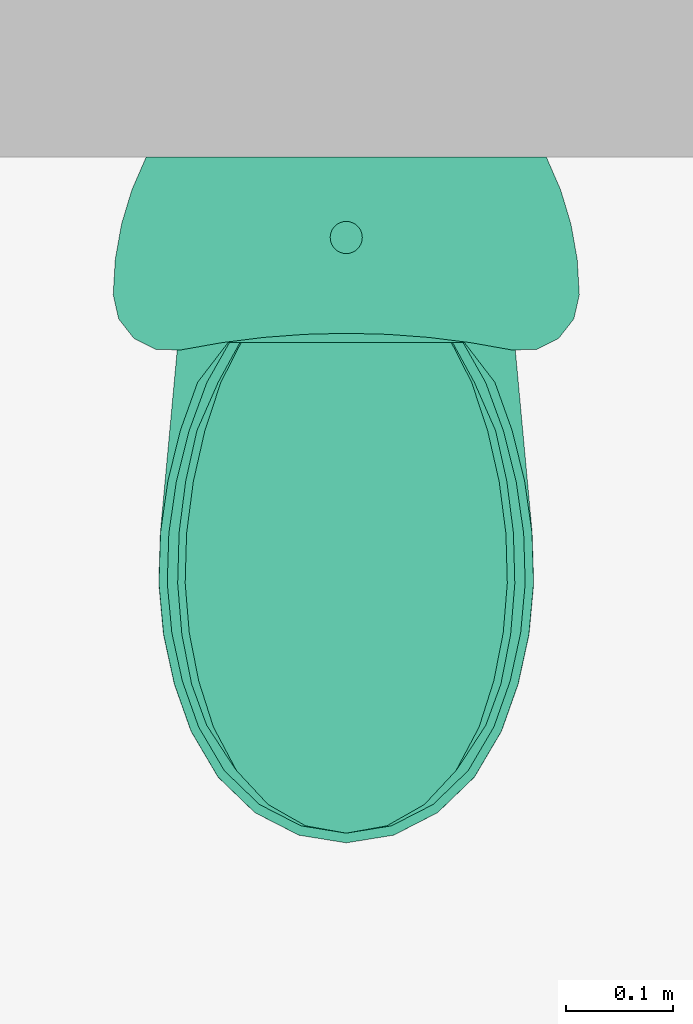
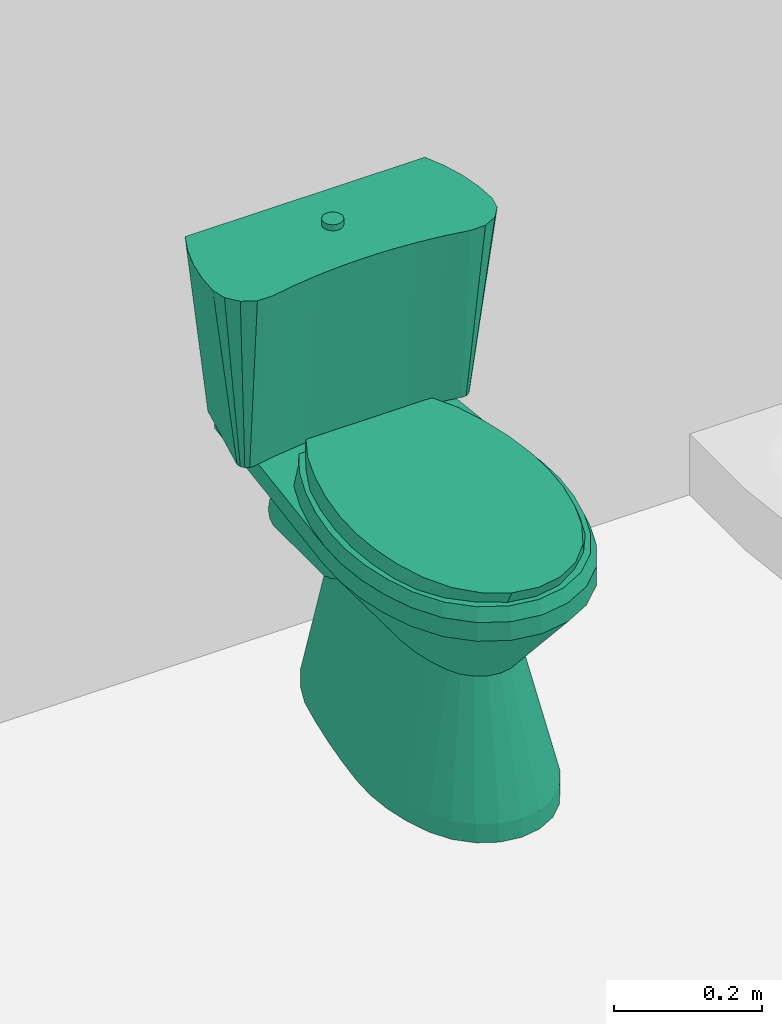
# One storey, part 31 of 36: 1 flow terminal.
"""IFC2X3 building model written with IfcOpenShell, lengths in millimetres."""

from ifc_helpers import new_model, entity, si_unit, converted_unit, money_unit, direction, frame, origin_with_axes, place, context, subcontext, project, spatial, open_shell, faceted_brep, surface_model, material, material_list, type_object, element, save


model = new_model("IFC2X3")

# Units and contexts
model_context = context("Model", 3, precision=1e-05, world=origin_with_axes(), true_north=direction((0.0, 1.0)))
body_context = subcontext(model_context, "Body", "Model", "MODEL_VIEW")
ifc_project = project(units=[si_unit("LENGTHUNIT", "METRE", prefix="MILLI"), si_unit("AREAUNIT", "SQUARE_METRE"), si_unit("VOLUMEUNIT", "CUBIC_METRE"), converted_unit("PLANEANGLEUNIT", "DEGREE", entity("IfcPlaneAngleMeasure", 0.0174532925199), si_unit("PLANEANGLEUNIT", "RADIAN"), dimensions=[0, 0, 0, 0, 0, 0, 0]), si_unit("SOLIDANGLEUNIT", "STERADIAN"), money_unit("USD"), converted_unit("TIMEUNIT", "Year", entity("IfcTimeMeasure", 31556926.0), si_unit("TIMEUNIT", "SECOND"), dimensions=[0, 0, 0, 0, 0, 0, 0]), si_unit("MASSUNIT", "GRAM"), si_unit("THERMODYNAMICTEMPERATUREUNIT", "DEGREE_CELSIUS"), si_unit("LUMINOUSINTENSITYUNIT", "LUMEN")], contexts=[model_context])

# Site, building, storey
site_placement = place(None, origin_with_axes())
site = spatial("IfcSite", under=ifc_project, at=site_placement, Name="Site", CompositionType="ELEMENT")
building_placement = place(site_placement, origin_with_axes())
building = spatial("IfcBuilding", under=site, at=building_placement, Name="Building", CompositionType="ELEMENT")
storey_placement = place(building_placement, frame((0.0, 0.0, -3400.0), z_axis=(0.0, 0.0, 1.0), x_axis=(1.0, 0.0, 0.0)))
storey = spatial("IfcBuildingStorey", under=building, at=storey_placement, Name="1KORRUS", CompositionType="ELEMENT", Elevation=-3400.0)

# Flow terminal
ifc_material = material(Name="Background")
ifc_material_list = material_list([ifc_material])
sanitary_terminal_type = type_object("IfcSanitaryTerminalType", Name="WC 19", PredefinedType="WCSEAT")
flow_terminal_placement = place(storey_placement, frame((-56354.1057379, -5039.6041088, 0.0), z_axis=(0.0, 0.0, 1.0), x_axis=(1.0, 0.0, 0.0)))
element("IfcFlowTerminal", 1, at=flow_terminal_placement, inside=storey, type_object=sanitary_terminal_type, material=ifc_material_list, Name="FU - 004", context=body_context, shape_type="SurfaceModel", body=[
    faceted_brep([(55.058, -205.714, 219.881), (49.363, -205.714, 233.628), (40.305, -205.714, 245.433), (28.5, -205.714, 254.492), (14.753, -205.714, 260.186), (0.0, -205.714, 262.128), (-14.753, -205.714, 260.186), (-28.5, -205.714, 254.492), (-40.305, -205.714, 245.433), (-49.363, -205.714, 233.628), (-55.058, -205.714, 219.881), (-57.0, -205.714, 205.128), (-55.058, -205.714, 190.376), (-49.363, -205.714, 176.628), (-40.305, -205.714, 164.823), (-28.5, -205.714, 155.765), (-14.753, -205.714, 150.07), (0.0, -205.714, 148.128), (14.753, -205.714, 150.07), (28.5, -205.714, 155.765), (40.305, -205.714, 164.823), (49.363, -205.714, 176.628), (55.058, -205.714, 190.376), (57.0, -205.714, 205.128), (55.058, 0.0, 219.881), (49.363, 0.0, 233.628), (40.305, 0.0, 245.433), (28.5, 0.0, 254.492), (14.753, 0.0, 260.186), (0.0, 0.0, 262.128), (-14.753, 0.0, 260.186), (-28.5, 0.0, 254.492), (-40.305, 0.0, 245.433), (-49.363, 0.0, 233.628), (-55.058, 0.0, 219.881), (-57.0, 0.0, 205.128), (-55.058, 0.0, 190.376), (-49.363, 0.0, 176.628), (-40.305, 0.0, 164.823), (-28.5, 0.0, 155.765), (-14.753, 0.0, 150.07), (0.0, 0.0, 148.128), (14.753, 0.0, 150.07), (28.5, 0.0, 155.765), (40.305, 0.0, 164.823), (49.363, 0.0, 176.628), (55.058, 0.0, 190.376), (57.0, 0.0, 205.128)], [[[0, 1, 2, 3, 4, 5, 6, 7, 8, 9, 10, 11, 12, 13, 14, 15, 16, 17, 18, 19, 20, 21, 22, 23]], [[1, 0, 24, 25]], [[2, 1, 25, 26]], [[3, 2, 26, 27]], [[4, 3, 27, 28]], [[5, 4, 28, 29]], [[6, 5, 29, 30]], [[7, 6, 30, 31]], [[8, 7, 31, 32]], [[9, 8, 32, 33]], [[10, 9, 33, 34]], [[11, 10, 34, 35]], [[12, 11, 35, 36]], [[13, 12, 36, 37]], [[14, 13, 37, 38]], [[15, 14, 38, 39]], [[16, 15, 39, 40]], [[17, 16, 40, 41]], [[18, 17, 41, 42]], [[19, 18, 42, 43]], [[20, 19, 43, 44]], [[21, 20, 44, 45]], [[22, 21, 45, 46]], [[23, 22, 46, 47]], [[0, 23, 47, 24]], [[24, 47, 46, 45, 44, 43, 42, 41, 40, 39, 38, 37, 36, 35, 34, 33, 32, 31, 30, 29, 28, 27, 26, 25]]]),
    surface_model("IfcShellBasedSurfaceModel", [(0.0, -584.332, 0.0), (31.164, -579.288, 0.0), (31.164, -579.288, 30.769), (0.0, -584.332, 30.769), (-31.164, -579.288, 0.0), (-59.941, -564.544, 0.0), (-84.129, -541.226, 0.0), (-101.875, -511.122, 0.0), (-114.924, -474.291, 0.0), (-123.349, -435.692, 0.0), (-126.982, -396.1, 0.0), (-125.75, -356.312, 0.0), (-120.449, -307.768, 0.0), (-113.552, -259.495, 0.0), (-105.069, -211.56, 0.0), (-95.011, -164.036, 0.0), (-81.829, -130.153, 0.0), (-59.931, -102.992, 0.0), (-31.651, -85.443, 0.0), (0.0, -79.379, 0.0), (31.651, -85.443, 0.0), (59.931, -102.992, 0.0), (81.829, -130.153, 0.0), (95.011, -164.036, 0.0), (105.069, -211.56, 0.0), (113.552, -259.494, 0.0), (120.449, -307.768, 0.0), (125.75, -356.312, 0.0), (126.982, -396.1, 0.0), (123.349, -435.692, 0.0), (114.924, -474.291, 0.0), (101.875, -511.122, 0.0), (84.129, -541.226, 0.0), (59.941, -564.544, 0.0), (59.941, -564.544, 30.769), (-31.164, -579.288, 30.769), (-59.941, -564.544, 30.769), (-84.129, -541.226, 30.769), (-101.875, -511.122, 30.769), (-114.924, -474.291, 30.769), (-123.349, -435.692, 30.769), (-126.982, -396.1, 30.769), (-125.75, -356.312, 30.769), (-120.449, -307.768, 30.769), (-113.552, -259.495, 30.769), (-105.069, -211.56, 30.769), (-95.011, -164.036, 30.769), (-81.829, -130.153, 30.769), (-59.931, -102.992, 30.769), (-31.651, -85.443, 30.769), (0.0, -79.379, 30.769), (31.651, -85.443, 30.769), (59.931, -102.992, 30.769), (81.829, -130.153, 30.769), (95.011, -164.036, 30.769), (105.069, -211.56, 30.769), (113.552, -259.494, 30.769), (120.449, -307.768, 30.769), (125.75, -356.312, 30.769), (126.982, -396.1, 30.769), (123.349, -435.692, 30.769), (114.924, -474.291, 30.769), (101.875, -511.122, 30.769), (84.129, -541.226, 30.769)], [open_shell([[[0, 1, 2, 3]], [[0, 4, 5, 6, 7, 8, 9, 10, 11, 12, 13, 14, 15, 16, 17, 18, 19, 20, 21, 22, 23, 24, 25, 26, 27, 28, 29, 30, 31, 32, 33, 1]], [[1, 33, 34, 2]], [[4, 0, 3, 35]], [[5, 4, 35, 36]], [[6, 5, 36, 37]], [[7, 6, 37, 38]], [[8, 7, 38, 39]], [[9, 8, 39, 40]], [[10, 9, 40, 41]], [[11, 10, 41, 42]], [[12, 11, 42, 43]], [[13, 12, 43, 44]], [[14, 13, 44, 45]], [[15, 14, 45, 46]], [[16, 15, 46, 47]], [[17, 16, 47, 48]], [[18, 17, 48, 49]], [[19, 18, 49, 50]], [[20, 19, 50, 51]], [[21, 20, 51, 52]], [[22, 21, 52, 53]], [[23, 22, 53, 54]], [[24, 23, 54, 55]], [[25, 24, 55, 56]], [[26, 25, 56, 57]], [[27, 26, 57, 58]], [[28, 27, 58, 59]], [[29, 28, 59, 60]], [[30, 29, 60, 61]], [[31, 30, 61, 62]], [[32, 31, 62, 63]], [[33, 32, 63, 34]]])]),
    surface_model("IfcShellBasedSurfaceModel", [(0.0, -584.332, 30.769), (-31.164, -579.288, 30.769), (-17.71, -524.594, 235.897), (-34.064, -516.215, 235.897), (0.0, -527.46, 235.897), (-59.941, -564.544, 30.769), (31.164, -579.288, 30.769), (-47.809, -502.964, 235.897), (17.71, -524.594, 235.897), (-84.129, -541.226, 30.769), (59.941, -564.544, 30.769), (-57.893, -485.857, 235.897), (34.064, -516.215, 235.897), (-101.875, -511.122, 30.769), (84.129, -541.226, 30.769), (-68.302, -456.477, 235.897), (47.809, -502.964, 235.897), (-114.924, -474.291, 30.769), (101.875, -511.122, 30.769), (-75.023, -425.689, 235.897), (57.893, -485.857, 235.897), (-123.349, -435.692, 30.769), (114.924, -474.291, 30.769), (-77.921, -394.109, 235.897), (68.302, -456.477, 235.897), (-126.982, -396.1, 30.769), (123.349, -435.692, 30.769), (-76.938, -362.372, 235.897), (75.023, -425.689, 235.897), (-125.75, -356.312, 30.769), (126.982, -396.1, 30.769), (-71.048, -309.559, 235.897), (77.921, -394.108, 235.897), (-120.449, -307.768, 30.769), (125.75, -356.312, 30.769), (-63.181, -257.094, 235.897), (76.938, -362.372, 235.897), (-113.552, -259.495, 30.769), (120.449, -307.768, 30.769), (-53.352, -205.075, 235.897), (71.048, -309.559, 235.897), (-105.069, -211.56, 30.769), (113.552, -259.494, 30.769), (-41.58, -153.6, 235.897), (63.181, -257.094, 235.897), (-95.011, -164.036, 30.769), (105.069, -211.56, 30.769), (-35.636, -139.049, 235.897), (53.352, -205.075, 235.897), (-81.829, -130.153, 30.769), (95.011, -164.036, 30.769), (-26.018, -127.43, 235.897), (41.58, -153.6, 235.897), (-59.931, -102.992, 30.769), (81.829, -130.153, 30.769), (-13.716, -119.942, 235.897), (35.636, -139.049, 235.897), (-31.651, -85.443, 30.769), (59.931, -102.992, 30.769), (0.0, -117.357, 235.897), (26.018, -127.43, 235.897), (0.0, -79.379, 30.769), (31.651, -85.443, 30.769), (13.716, -119.942, 235.897)], [open_shell([[[0, 1, 2]], [[1, 3, 2]], [[0, 2, 4]], [[1, 5, 3]], [[6, 0, 4]], [[5, 7, 3]], [[6, 4, 8]], [[5, 9, 7]], [[10, 6, 8]], [[9, 11, 7]], [[10, 8, 12]], [[9, 13, 11]], [[14, 10, 12]], [[13, 15, 11]], [[14, 12, 16]], [[13, 17, 15]], [[18, 14, 16]], [[17, 19, 15]], [[18, 16, 20]], [[17, 21, 19]], [[22, 18, 20]], [[21, 23, 19]], [[22, 20, 24]], [[21, 25, 23]], [[26, 22, 24]], [[25, 27, 23]], [[26, 24, 28]], [[25, 29, 27]], [[30, 26, 28]], [[29, 31, 27]], [[30, 28, 32]], [[29, 33, 31]], [[34, 30, 32]], [[33, 35, 31]], [[34, 32, 36]], [[33, 37, 35]], [[38, 34, 36]], [[37, 39, 35]], [[38, 36, 40]], [[37, 41, 39]], [[42, 38, 40]], [[41, 43, 39]], [[42, 40, 44]], [[41, 45, 43]], [[46, 42, 44]], [[45, 47, 43]], [[46, 44, 48]], [[45, 49, 47]], [[50, 46, 48]], [[49, 51, 47]], [[50, 48, 52]], [[49, 53, 51]], [[54, 50, 52]], [[53, 55, 51]], [[54, 52, 56]], [[53, 57, 55]], [[58, 54, 56]], [[57, 59, 55]], [[58, 56, 60]], [[57, 61, 59]], [[62, 58, 60]], [[61, 63, 59]], [[62, 60, 63]], [[61, 62, 63]]])]),
    surface_model("IfcShellBasedSurfaceModel", [(17.71, -524.594, 235.897), (34.064, -516.215, 235.897), (85.272, -611.849, 369.231), (0.0, -527.46, 235.897), (-17.71, -524.594, 235.897), (-34.064, -516.215, 235.897), (-47.809, -502.964, 235.897), (-57.893, -485.857, 235.897), (-68.302, -456.477, 235.897), (-75.023, -425.689, 235.897), (-77.921, -394.109, 235.897), (-76.938, -362.372, 235.897), (-71.048, -309.559, 235.897), (-63.181, -257.094, 235.897), (-53.352, -205.075, 235.897), (-41.58, -153.6, 235.897), (-35.636, -139.049, 235.897), (-26.018, -127.43, 235.897), (-13.716, -119.942, 235.897), (0.0, -117.357, 235.897), (13.716, -119.942, 235.897), (26.018, -127.43, 235.897), (35.636, -139.049, 235.897), (41.58, -153.6, 235.897), (53.352, -205.075, 235.897), (63.181, -257.094, 235.897), (71.048, -309.559, 235.897), (76.938, -362.372, 235.897), (77.921, -394.108, 235.897), (75.023, -425.689, 235.897), (68.302, -456.477, 235.897), (57.893, -485.857, 235.897), (47.809, -502.964, 235.897), (119.68, -578.678, 369.231), (44.333, -632.825, 369.231), (0.0, -640.0, 369.231), (-44.333, -632.825, 369.231), (-85.272, -611.849, 369.231), (-119.68, -578.678, 369.231), (-144.925, -535.853, 369.231), (-160.558, -491.726, 369.231), (-170.653, -445.482, 369.231), (-175.006, -398.05, 369.231), (-173.529, -350.382, 369.231), (-164.984, -294.051, 369.231), (-149.997, -239.558, 369.231), (-128.84, -187.883, 369.231), (-101.895, -139.96, 369.231), (-81.598, -115.237, 369.231), (-56.946, -96.571, 369.231), (-29.254, -84.958, 369.231), (0.0, -81.017, 369.231), (29.254, -84.958, 369.231), (56.946, -96.571, 369.231), (81.598, -115.237, 369.231), (101.895, -139.96, 369.231), (128.84, -187.883, 369.231), (149.997, -239.558, 369.231), (164.984, -294.052, 369.231), (173.529, -350.382, 369.231), (175.006, -398.05, 369.231), (170.653, -445.482, 369.231), (160.559, -491.726, 369.231), (144.925, -535.853, 369.231)], [open_shell([[[0, 1, 2]], [[0, 3, 4, 5, 6, 7, 8, 9, 10, 11, 12, 13, 14, 15, 16, 17, 18, 19, 20, 21, 22, 23, 24, 25, 26, 27, 28, 29, 30, 31, 32, 1]], [[1, 33, 2]], [[0, 2, 34]], [[3, 0, 34]], [[4, 3, 35]], [[5, 4, 36]], [[6, 5, 37]], [[7, 6, 38]], [[8, 7, 39]], [[9, 8, 40]], [[10, 9, 41]], [[11, 10, 42]], [[12, 11, 43]], [[13, 12, 44]], [[14, 13, 45]], [[15, 14, 46]], [[16, 15, 47]], [[17, 16, 48]], [[18, 17, 49]], [[19, 18, 50]], [[20, 19, 51]], [[21, 20, 52]], [[22, 21, 53]], [[23, 22, 54]], [[24, 23, 55]], [[25, 24, 56]], [[26, 25, 57]], [[27, 26, 58]], [[28, 27, 59]], [[29, 28, 60]], [[30, 29, 61]], [[31, 30, 62]], [[32, 31, 63]], [[1, 32, 33]], [[3, 34, 35]], [[4, 35, 36]], [[5, 36, 37]], [[6, 37, 38]], [[7, 38, 39]], [[8, 39, 40]], [[9, 40, 41]], [[10, 41, 42]], [[11, 42, 43]], [[12, 43, 44]], [[13, 44, 45]], [[14, 45, 46]], [[15, 46, 47]], [[16, 47, 48]], [[17, 48, 49]], [[18, 49, 50]], [[19, 50, 51]], [[20, 51, 52]], [[21, 52, 53]], [[22, 53, 54]], [[23, 54, 55]], [[24, 55, 56]], [[25, 56, 57]], [[26, 57, 58]], [[27, 58, 59]], [[28, 59, 60]], [[29, 60, 61]], [[30, 61, 62]], [[31, 62, 63]], [[32, 63, 33]]])]),
    surface_model("IfcShellBasedSurfaceModel", [(16.824, -532.266, 276.923), (32.361, -525.73, 276.923), (81.008, -600.324, 369.231), (0.0, -534.501, 276.923), (-16.824, -532.266, 276.923), (-32.361, -525.73, 276.923), (-45.418, -515.394, 276.923), (-54.998, -502.051, 276.923), (-64.887, -479.134, 276.923), (-71.271, -455.12, 276.923), (-74.025, -430.487, 276.923), (-73.091, -405.732, 276.923), (-67.496, -364.538, 276.923), (-60.022, -323.615, 276.923), (-50.684, -283.041, 276.923), (-39.501, -242.89, 276.923), (-33.854, -231.54, 276.923), (-24.717, -222.477, 276.923), (-13.03, -216.637, 276.923), (0.0, -214.62, 276.923), (13.03, -216.637, 276.923), (24.717, -222.477, 276.923), (33.854, -231.54, 276.923), (39.501, -242.89, 276.923), (50.684, -283.041, 276.923), (60.022, -323.615, 276.923), (67.496, -364.538, 276.923), (73.091, -405.732, 276.923), (74.025, -430.487, 276.923), (71.271, -455.12, 276.923), (64.887, -479.134, 276.923), (54.998, -502.051, 276.923), (45.418, -515.394, 276.923), (113.696, -574.451, 369.231), (42.117, -616.686, 369.231), (0.0, -622.282, 369.231), (-42.117, -616.686, 369.231), (-81.008, -600.324, 369.231), (-113.696, -574.451, 369.231), (-137.679, -541.048, 369.231), (-152.53, -506.628, 369.231), (-162.12, -470.558, 369.231), (-166.256, -433.562, 369.231), (-164.853, -396.38, 369.231), (-156.735, -352.442, 369.231), (-142.497, -309.937, 369.231), (-122.398, -269.631, 369.231), (-96.8, -232.251, 369.231), (-77.518, -212.967, 369.231), (-54.099, -198.408, 369.231), (-27.791, -189.35, 369.231), (0.0, -186.275, 369.231), (27.791, -189.35, 369.231), (54.099, -198.408, 369.231), (77.518, -212.967, 369.231), (96.8, -232.251, 369.231), (122.398, -269.631, 369.231), (142.497, -309.937, 369.231), (156.735, -352.443, 369.231), (164.853, -396.38, 369.231), (166.256, -433.562, 369.231), (162.12, -470.558, 369.231), (152.531, -506.628, 369.231), (137.679, -541.048, 369.231)], [open_shell([[[0, 1, 2]], [[0, 3, 4, 5, 6, 7, 8, 9, 10, 11, 12, 13, 14, 15, 16, 17, 18, 19, 20, 21, 22, 23, 24, 25, 26, 27, 28, 29, 30, 31, 32, 1]], [[1, 33, 2]], [[0, 2, 34]], [[3, 0, 34]], [[4, 3, 35]], [[5, 4, 36]], [[6, 5, 37]], [[7, 6, 38]], [[8, 7, 39]], [[9, 8, 40]], [[10, 9, 41]], [[11, 10, 42]], [[12, 11, 43]], [[13, 12, 44]], [[14, 13, 45]], [[15, 14, 46]], [[16, 15, 47]], [[17, 16, 48]], [[18, 17, 49]], [[19, 18, 50]], [[20, 19, 51]], [[21, 20, 52]], [[22, 21, 53]], [[23, 22, 54]], [[24, 23, 55]], [[25, 24, 56]], [[26, 25, 57]], [[27, 26, 58]], [[28, 27, 59]], [[29, 28, 60]], [[30, 29, 61]], [[31, 30, 62]], [[32, 31, 63]], [[1, 32, 33]], [[3, 34, 35]], [[4, 35, 36]], [[5, 36, 37]], [[6, 37, 38]], [[7, 38, 39]], [[8, 39, 40]], [[9, 40, 41]], [[10, 41, 42]], [[11, 42, 43]], [[12, 43, 44]], [[13, 44, 45]], [[14, 45, 46]], [[15, 46, 47]], [[16, 47, 48]], [[17, 48, 49]], [[18, 49, 50]], [[19, 50, 51]], [[20, 51, 52]], [[21, 52, 53]], [[22, 53, 54]], [[23, 54, 55]], [[24, 55, 56]], [[25, 56, 57]], [[26, 57, 58]], [[27, 58, 59]], [[28, 59, 60]], [[29, 60, 61]], [[30, 61, 62]], [[31, 62, 63]], [[32, 63, 33]]])]),
    faceted_brep([(-173.529, -350.382, 369.231), (-175.006, -398.05, 369.231), (-175.006, -398.05, 400.0), (-173.529, -350.382, 400.0), (-141.122, 0.002, 369.231), (141.124, 0.002, 369.231), (173.529, -350.382, 369.231), (175.006, -398.05, 369.231), (170.653, -445.482, 369.231), (160.559, -491.726, 369.231), (144.925, -535.853, 369.231), (119.68, -578.678, 369.231), (85.272, -611.849, 369.231), (44.333, -632.825, 369.231), (0.0, -640.0, 369.231), (-44.333, -632.825, 369.231), (-85.272, -611.849, 369.231), (-119.68, -578.678, 369.231), (-144.925, -535.853, 369.231), (-160.558, -491.726, 369.231), (-170.653, -445.482, 369.231), (144.654, -353.966, 369.231), (129.525, -295.18, 369.231), (97.237, -246.561, 369.231), (52.068, -214.548, 369.231), (0.0, -203.385, 369.231), (-52.068, -214.548, 369.231), (-97.237, -246.561, 369.231), (-129.525, -295.18, 369.231), (-144.654, -353.966, 369.231), (-145.982, -396.872, 369.231), (-142.064, -439.565, 369.231), (-132.978, -481.188, 369.231), (-118.907, -520.907, 369.231), (-98.195, -556.044, 369.231), (-69.964, -583.26, 369.231), (-36.375, -600.47, 369.231), (0.0, -606.357, 369.231), (36.375, -600.47, 369.231), (69.964, -583.26, 369.231), (98.195, -556.044, 369.231), (118.907, -520.907, 369.231), (132.978, -481.188, 369.231), (142.064, -439.565, 369.231), (145.982, -396.872, 369.231), (-170.653, -445.482, 400.0), (-160.558, -491.726, 400.0), (-144.925, -535.853, 400.0), (-119.68, -578.678, 400.0), (-85.272, -611.849, 400.0), (-44.333, -632.825, 400.0), (0.0, -640.0, 400.0), (44.333, -632.825, 400.0), (85.272, -611.849, 400.0), (119.68, -578.678, 400.0), (144.925, -535.853, 400.0), (160.559, -491.726, 400.0), (170.653, -445.482, 400.0), (175.006, -398.05, 400.0), (173.529, -350.382, 400.0), (141.124, 0.002, 400.0), (-141.122, 0.002, 400.0), (144.654, -353.966, 400.0), (145.982, -396.872, 400.0), (142.064, -439.565, 400.0), (132.978, -481.188, 400.0), (118.907, -520.907, 400.0), (98.195, -556.044, 400.0), (69.964, -583.26, 400.0), (36.375, -600.47, 400.0), (0.0, -606.357, 400.0), (-36.375, -600.47, 400.0), (-69.964, -583.26, 400.0), (-98.195, -556.044, 400.0), (-118.907, -520.907, 400.0), (-132.978, -481.188, 400.0), (-142.064, -439.565, 400.0), (-145.982, -396.872, 400.0), (-144.654, -353.966, 400.0), (-129.525, -295.18, 400.0), (-97.237, -246.561, 400.0), (-52.068, -214.548, 400.0), (0.0, -203.385, 400.0), (52.068, -214.548, 400.0), (97.237, -246.561, 400.0), (129.525, -295.18, 400.0)], [[[0, 1, 2, 3]], [[0, 4, 5, 6, 7, 8, 9, 10, 11, 12, 13, 14, 15, 16, 17, 18, 19, 20, 1], [21, 22, 23, 24, 25, 26, 27, 28, 29, 30, 31, 32, 33, 34, 35, 36, 37, 38, 39, 40, 41, 42, 43, 44]], [[1, 20, 45, 2]], [[3, 2, 45, 46, 47, 48, 49, 50, 51, 52, 53, 54, 55, 56, 57, 58, 59, 60, 61], [62, 63, 64, 65, 66, 67, 68, 69, 70, 71, 72, 73, 74, 75, 76, 77, 78, 79, 80, 81, 82, 83, 84, 85]], [[4, 0, 3, 61]], [[5, 4, 61, 60]], [[6, 5, 60, 59]], [[7, 6, 59, 58]], [[8, 7, 58, 57]], [[9, 8, 57, 56]], [[10, 9, 56, 55]], [[11, 10, 55, 54]], [[12, 11, 54, 53]], [[13, 12, 53, 52]], [[14, 13, 52, 51]], [[15, 14, 51, 50]], [[16, 15, 50, 49]], [[17, 16, 49, 48]], [[18, 17, 48, 47]], [[19, 18, 47, 46]], [[20, 19, 46, 45]], [[22, 21, 62, 85]], [[23, 22, 85, 84]], [[24, 23, 84, 83]], [[25, 24, 83, 82]], [[26, 25, 82, 81]], [[27, 26, 81, 80]], [[28, 27, 80, 79]], [[29, 28, 79, 78]], [[30, 29, 78, 77]], [[31, 30, 77, 76]], [[32, 31, 76, 75]], [[33, 32, 75, 74]], [[34, 33, 74, 73]], [[35, 34, 73, 72]], [[36, 35, 72, 71]], [[37, 36, 71, 70]], [[38, 37, 70, 69]], [[39, 38, 69, 68]], [[40, 39, 68, 67]], [[41, 40, 67, 66]], [[42, 41, 66, 65]], [[43, 42, 65, 64]], [[44, 43, 64, 63]], [[21, 44, 63, 62]]]),
    faceted_brep([(-44.287, -632.825, 400.0), (-85.182, -611.849, 400.0), (-119.555, -578.678, 400.0), (-144.773, -535.854, 400.0), (-160.389, -491.726, 400.0), (-170.474, -445.483, 400.0), (-174.822, -398.051, 400.0), (-173.347, -350.383, 400.0), (-166.466, -302.202, 400.0), (-154.872, -255.251, 400.0), (-138.715, -210.15, 400.0), (-110.193, -172.933, 400.0), (110.193, -172.933, 400.0), (138.715, -210.15, 400.0), (154.872, -255.251, 400.0), (166.466, -302.202, 400.0), (173.347, -350.383, 400.0), (174.822, -398.051, 400.0), (170.474, -445.483, 400.0), (160.39, -491.726, 400.0), (144.773, -535.854, 400.0), (119.555, -578.678, 400.0), (85.182, -611.849, 400.0), (44.287, -632.825, 400.0), (0.0, -640.0, 400.0), (87.077, -470.853, 400.0), (94.511, -436.887, 400.0), (97.716, -402.055, 400.0), (96.614, -366.563, 400.0), (90.993, -327.765, 400.0), (81.329, -289.529, 400.0), (68.754, -255.39, 400.0), (-68.754, -255.39, 400.0), (-81.329, -289.53, 400.0), (-90.993, -327.765, 400.0), (-96.614, -366.563, 400.0), (-97.716, -402.055, 400.0), (-94.511, -436.887, 400.0), (-87.077, -470.853, 400.0), (-76.489, -500.66, 400.0), (-62.069, -525.059, 400.0), (-44.261, -542.179, 400.0), (-23.026, -553.031, 400.0), (0.0, -556.748, 400.0), (23.026, -553.031, 400.0), (44.261, -542.179, 400.0), (62.069, -525.059, 400.0), (76.489, -500.66, 400.0), (-42.152, -624.136, 420.0), (-81.076, -604.17, 420.0), (-113.791, -572.6, 420.0), (-137.793, -531.84, 420.0), (-152.99, -488.897, 420.0), (-162.803, -443.894, 420.0), (-167.035, -397.734, 420.0), (-165.601, -351.346, 420.0), (-158.59, -302.781, 420.0), (-146.688, -255.515, 420.0), (-130.061, -210.208, 420.0), (-108.94, -172.933, 420.0), (108.94, -172.933, 420.0), (130.061, -210.207, 420.0), (146.688, -255.515, 420.0), (158.59, -302.781, 420.0), (165.601, -351.346, 420.0), (167.035, -397.734, 420.0), (162.803, -443.894, 420.0), (152.99, -488.897, 420.0), (137.793, -531.84, 420.0), (113.791, -572.6, 420.0), (81.076, -604.17, 420.0), (42.152, -624.136, 420.0), (0.0, -630.965, 420.0), (87.077, -470.853, 420.0), (94.511, -436.887, 420.0), (97.716, -402.055, 420.0), (96.614, -366.563, 420.0), (90.993, -327.765, 420.0), (81.329, -289.529, 420.0), (68.754, -255.39, 420.0), (-68.754, -255.39, 420.0), (-81.329, -289.53, 420.0), (-90.993, -327.765, 420.0), (-96.614, -366.563, 420.0), (-97.716, -402.055, 420.0), (-94.511, -436.887, 420.0), (-87.077, -470.853, 420.0), (-76.489, -500.66, 420.0), (-62.069, -525.059, 420.0), (-44.261, -542.179, 420.0), (-23.026, -553.031, 420.0), (0.0, -556.748, 420.0), (23.026, -553.031, 420.0), (44.261, -542.179, 420.0), (62.069, -525.059, 420.0), (76.489, -500.66, 420.0)], [[[0, 1, 2, 3, 4, 5, 6, 7, 8, 9, 10, 11, 12, 13, 14, 15, 16, 17, 18, 19, 20, 21, 22, 23, 24], [25, 26, 27, 28, 29, 30, 31, 32, 33, 34, 35, 36, 37, 38, 39, 40, 41, 42, 43, 44, 45, 46, 47]], [[0, 48, 1]], [[1, 49, 2]], [[2, 50, 3]], [[3, 51, 4]], [[4, 52, 5]], [[53, 54, 6, 5]], [[6, 54, 7]], [[7, 55, 8]], [[8, 56, 9]], [[9, 57, 10]], [[10, 58, 11]], [[59, 60, 12, 11]], [[12, 60, 13]], [[13, 61, 14]], [[14, 62, 15]], [[15, 63, 16]], [[16, 64, 17]], [[65, 66, 18, 17]], [[18, 66, 19]], [[67, 68, 20, 19]], [[20, 68, 21]], [[21, 69, 22]], [[22, 70, 23]], [[23, 71, 24]], [[24, 72, 0]], [[73, 74, 26, 25]], [[74, 75, 27, 26]], [[75, 76, 28, 27]], [[76, 77, 29, 28]], [[77, 78, 30, 29]], [[78, 79, 31, 30]], [[79, 80, 32, 31]], [[80, 81, 33, 32]], [[81, 82, 34, 33]], [[82, 83, 35, 34]], [[83, 84, 36, 35]], [[84, 85, 37, 36]], [[85, 86, 38, 37]], [[86, 87, 39, 38]], [[87, 88, 40, 39]], [[88, 89, 41, 40]], [[89, 90, 42, 41]], [[90, 91, 43, 42]], [[91, 92, 44, 43]], [[92, 93, 45, 44]], [[93, 94, 46, 45]], [[94, 95, 47, 46]], [[95, 73, 25, 47]], [[72, 48, 0]], [[48, 49, 1]], [[49, 50, 2]], [[50, 51, 3]], [[51, 52, 4]], [[52, 53, 5]], [[52, 51, 50, 49, 48, 72, 71, 70, 69, 68, 67, 66, 65, 64, 63, 62, 61, 60, 59, 58, 57, 56, 55, 54, 53], [77, 76, 75, 74, 73, 95, 94, 93, 92, 91, 90, 89, 88, 87, 86, 85, 84, 83, 82, 81, 80, 79, 78]], [[54, 55, 7]], [[55, 56, 8]], [[56, 57, 9]], [[57, 58, 10]], [[58, 59, 11]], [[60, 61, 13]], [[61, 62, 14]], [[62, 63, 15]], [[63, 64, 16]], [[64, 65, 17]], [[66, 67, 19]], [[68, 69, 21]], [[69, 70, 22]], [[70, 71, 23]], [[71, 72, 24]]]),
    faceted_brep([(-107.599, -565.049, 420.0), (-76.664, -593.677, 420.0), (-72.968, -604.17, 440.0), (-130.296, -530.175, 420.0), (-144.35, -491.726, 420.0), (-153.426, -445.483, 420.0), (-157.34, -398.051, 420.0), (-156.013, -350.383, 420.0), (-149.82, -302.202, 420.0), (-139.384, -255.251, 420.0), (-119.555, -210.15, 420.0), (-99.173, -172.933, 420.0), (99.173, -172.933, 420.0), (119.555, -210.15, 420.0), (139.384, -255.251, 420.0), (149.82, -302.202, 420.0), (156.013, -350.383, 420.0), (157.34, -398.051, 420.0), (153.426, -445.483, 420.0), (144.351, -491.726, 420.0), (130.296, -530.175, 420.0), (107.599, -565.049, 420.0), (76.664, -593.677, 420.0), (39.858, -615.789, 420.0), (0.0, -622.964, 420.0), (-39.858, -615.789, 420.0), (-37.937, -624.136, 440.0), (-102.412, -572.6, 440.0), (-124.013, -531.84, 440.0), (-137.691, -488.897, 440.0), (-146.523, -443.894, 440.0), (-150.332, -397.734, 440.0), (-149.041, -351.346, 440.0), (-142.731, -302.781, 440.0), (-132.019, -255.515, 440.0), (-117.055, -210.208, 440.0), (-98.046, -172.933, 440.0), (98.046, -172.933, 440.0), (117.055, -210.207, 440.0), (132.019, -255.515, 440.0), (142.731, -302.781, 440.0), (149.041, -351.346, 440.0), (150.332, -397.734, 440.0), (146.523, -443.894, 440.0), (137.691, -488.897, 440.0), (124.013, -531.84, 440.0), (102.412, -572.6, 440.0), (72.968, -604.17, 440.0), (37.937, -624.136, 440.0), (0.0, -630.965, 440.0)], [[[0, 1, 2]], [[0, 3, 4, 5, 6, 7, 8, 9, 10, 11, 12, 13, 14, 15, 16, 17, 18, 19, 20, 21, 22, 23, 24, 25, 1]], [[1, 26, 2]], [[0, 2, 27]], [[3, 0, 27]], [[4, 3, 28]], [[5, 4, 29]], [[6, 5, 30, 31]], [[7, 6, 31]], [[8, 7, 32]], [[9, 8, 33]], [[10, 9, 34]], [[11, 10, 35]], [[12, 11, 36, 37]], [[13, 12, 37]], [[14, 13, 38]], [[15, 14, 39]], [[16, 15, 40]], [[17, 16, 41]], [[18, 17, 42, 43]], [[19, 18, 43]], [[20, 19, 44]], [[21, 20, 45]], [[22, 21, 46]], [[23, 22, 47]], [[24, 23, 48]], [[25, 24, 49]], [[1, 25, 26]], [[27, 2, 26, 49, 48, 47, 46, 45, 44, 43, 42, 41, 40, 39, 38, 37, 36, 35, 34, 33, 32, 31, 30, 29, 28]], [[3, 27, 28]], [[4, 28, 29]], [[5, 29, 30]], [[7, 31, 32]], [[8, 32, 33]], [[9, 33, 34]], [[10, 34, 35]], [[11, 35, 36]], [[13, 37, 38]], [[14, 38, 39]], [[15, 39, 40]], [[16, 40, 41]], [[17, 41, 42]], [[19, 43, 44]], [[20, 44, 45]], [[21, 45, 46]], [[22, 46, 47]], [[23, 47, 48]], [[24, 48, 49]], [[25, 49, 26]]]),
    faceted_brep([(0.001, -126.751, 400.0), (40.757, -127.773, 400.0), (38.869, -165.393, 700.0), (-40.755, -127.773, 400.0), (-81.408, -130.833, 400.0), (-121.857, -135.925, 400.0), (-162.0, -143.036, 400.0), (-168.526, -142.9, 400.0), (-174.364, -139.98, 400.0), (-178.387, -134.843, 400.0), (-179.821, -128.477, 400.0), (-172.643, -96.357, 400.0), (-165.466, -64.238, 400.0), (-158.288, -32.119, 400.0), (-151.111, 0.0, 400.0), (151.113, 0.0, 400.0), (158.288, -32.119, 400.0), (165.467, -64.238, 400.0), (172.647, -96.357, 400.0), (179.822, -128.477, 400.0), (178.389, -134.843, 400.0), (174.366, -139.98, 400.0), (168.528, -142.9, 400.0), (162.002, -143.036, 400.0), (121.859, -135.925, 400.0), (81.41, -130.833, 400.0), (77.64, -168.312, 700.0), (0.001, -164.42, 700.0), (-38.868, -165.393, 700.0), (-77.638, -168.312, 700.0), (-116.214, -173.168, 700.0), (-154.499, -179.95, 700.0), (-177.569, -179.466, 700.0), (-198.207, -169.147, 700.0), (-212.431, -150.982, 700.0), (-217.499, -128.477, 700.0), (-215.545, -95.223, 700.0), (-209.709, -62.427, 700.0), (-200.072, -30.54, 700.0), (-186.767, 0.0, 700.0), (186.769, 0.0, 700.0), (200.074, -30.54, 700.0), (209.711, -62.427, 700.0), (215.547, -95.223, 700.0), (217.501, -128.477, 700.0), (212.433, -150.982, 700.0), (198.209, -169.147, 700.0), (177.571, -179.466, 700.0), (154.501, -179.95, 700.0), (116.216, -173.168, 700.0)], [[[0, 1, 2]], [[0, 3, 4, 5, 6, 7, 8, 9, 10, 11, 12, 13, 14, 15, 16, 17, 18, 19, 20, 21, 22, 23, 24, 25, 1]], [[1, 26, 2]], [[0, 2, 27]], [[3, 0, 27]], [[4, 3, 28]], [[5, 4, 29]], [[6, 5, 30]], [[7, 6, 31]], [[8, 7, 32]], [[9, 8, 33]], [[10, 9, 34]], [[11, 10, 35]], [[12, 11, 36]], [[13, 12, 37]], [[14, 13, 38]], [[15, 14, 39, 40]], [[16, 15, 40]], [[17, 16, 41]], [[18, 17, 42]], [[19, 18, 43]], [[20, 19, 44]], [[21, 20, 45]], [[22, 21, 46]], [[23, 22, 47]], [[24, 23, 48]], [[25, 24, 49]], [[1, 25, 26]], [[27, 2, 26, 49, 48, 47, 46, 45, 44, 43, 42, 41, 40, 39, 38, 37, 36, 35, 34, 33, 32, 31, 30, 29, 28]], [[3, 27, 28]], [[4, 28, 29]], [[5, 29, 30]], [[6, 30, 31]], [[7, 31, 32]], [[8, 32, 33]], [[9, 33, 34]], [[10, 34, 35]], [[11, 35, 36]], [[12, 36, 37]], [[13, 37, 38]], [[14, 38, 39]], [[16, 40, 41]], [[17, 41, 42]], [[18, 42, 43]], [[19, 43, 44]], [[20, 44, 45]], [[21, 45, 46]], [[22, 46, 47]], [[23, 47, 48]], [[24, 48, 49]], [[25, 49, 26]]]),
    faceted_brep([(14.712, -77.905, 700.0), (13.858, -80.718, 700.0), (12.472, -83.311, 700.0), (10.607, -85.583, 700.0), (8.334, -87.448, 700.0), (5.74, -88.834, 700.0), (2.926, -89.687, 700.0), (0.0, -89.975, 700.0), (-2.926, -89.687, 700.0), (-5.74, -88.834, 700.0), (-8.334, -87.448, 700.0), (-10.607, -85.583, 700.0), (-12.472, -83.311, 700.0), (-13.858, -80.718, 700.0), (-14.712, -77.905, 700.0), (-15.0, -74.979, 700.0), (-14.712, -72.054, 700.0), (-13.858, -69.241, 700.0), (-12.472, -66.648, 700.0), (-10.607, -64.376, 700.0), (-8.334, -62.511, 700.0), (-5.74, -61.125, 700.0), (-2.926, -60.272, 700.0), (0.0, -59.983, 700.0), (2.926, -60.272, 700.0), (5.74, -61.125, 700.0), (8.334, -62.511, 700.0), (10.607, -64.376, 700.0), (12.472, -66.648, 700.0), (13.858, -69.241, 700.0), (14.712, -72.054, 700.0), (15.0, -74.979, 700.0), (14.712, -77.905, 710.0), (13.858, -80.718, 710.0), (12.472, -83.311, 710.0), (10.607, -85.583, 710.0), (8.334, -87.448, 710.0), (5.74, -88.834, 710.0), (2.926, -89.687, 710.0), (0.0, -89.975, 710.0), (-2.926, -89.687, 710.0), (-5.74, -88.834, 710.0), (-8.334, -87.448, 710.0), (-10.607, -85.583, 710.0), (-12.472, -83.311, 710.0), (-13.858, -80.718, 710.0), (-14.712, -77.905, 710.0), (-15.0, -74.979, 710.0), (-14.712, -72.054, 710.0), (-13.858, -69.241, 710.0), (-12.472, -66.648, 710.0), (-10.607, -64.376, 710.0), (-8.334, -62.511, 710.0), (-5.74, -61.125, 710.0), (-2.926, -60.272, 710.0), (0.0, -59.983, 710.0), (2.926, -60.272, 710.0), (5.74, -61.125, 710.0), (8.334, -62.511, 710.0), (10.607, -64.376, 710.0), (12.472, -66.648, 710.0), (13.858, -69.241, 710.0), (14.712, -72.054, 710.0), (15.0, -74.979, 710.0)], [[[0, 1, 2, 3, 4, 5, 6, 7, 8, 9, 10, 11, 12, 13, 14, 15, 16, 17, 18, 19, 20, 21, 22, 23, 24, 25, 26, 27, 28, 29, 30, 31]], [[1, 0, 32, 33]], [[2, 1, 33, 34]], [[3, 2, 34, 35]], [[4, 3, 35, 36]], [[5, 4, 36, 37]], [[6, 5, 37, 38]], [[7, 6, 38, 39]], [[8, 7, 39, 40]], [[9, 8, 40, 41]], [[10, 9, 41, 42]], [[11, 10, 42, 43]], [[12, 11, 43, 44]], [[13, 12, 44, 45]], [[14, 13, 45, 46]], [[15, 14, 46, 47]], [[16, 15, 47, 48]], [[17, 16, 48, 49]], [[18, 17, 49, 50]], [[19, 18, 50, 51]], [[20, 19, 51, 52]], [[21, 20, 52, 53]], [[22, 21, 53, 54]], [[23, 22, 54, 55]], [[24, 23, 55, 56]], [[25, 24, 56, 57]], [[26, 25, 57, 58]], [[27, 26, 58, 59]], [[28, 27, 59, 60]], [[29, 28, 60, 61]], [[30, 29, 61, 62]], [[31, 30, 62, 63]], [[0, 31, 63, 32]], [[32, 63, 62, 61, 60, 59, 58, 57, 56, 55, 54, 53, 52, 51, 50, 49, 48, 47, 46, 45, 44, 43, 42, 41, 40, 39, 38, 37, 36, 35, 34, 33]]]),
])

save(model, "model.ifc")
